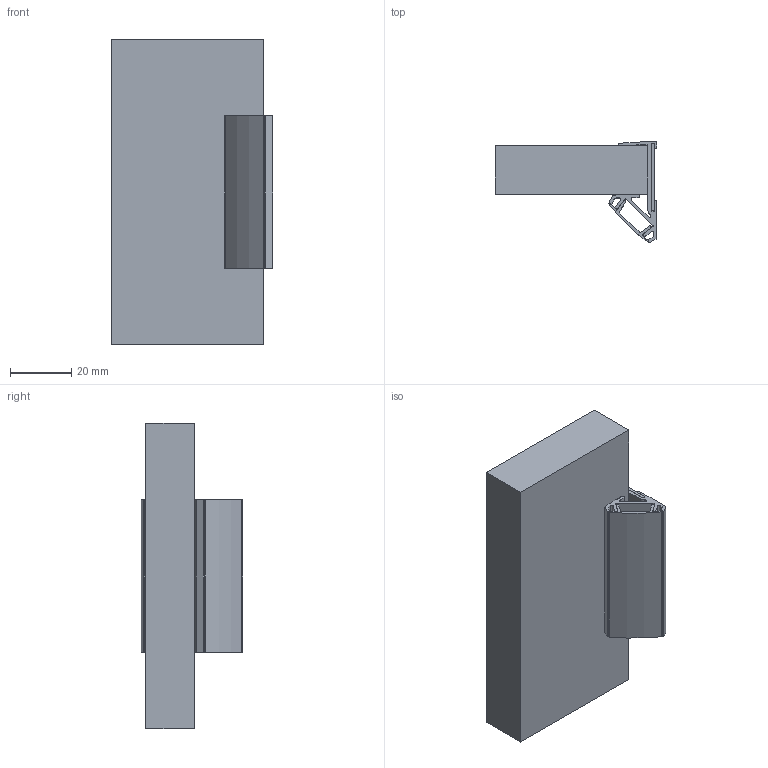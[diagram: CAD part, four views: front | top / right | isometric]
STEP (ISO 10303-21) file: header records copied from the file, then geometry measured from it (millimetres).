
FILE_DESCRIPTION(/* description */ ('Cover for LED Rails'),/* implementation_level */ '2;1');
FILE_NAME(/* name */ 'D:\$Workingspace\Designs\Profile\137 - Profil LED nakładany mały\MOOV pliki\pliki 3ds\PA-GLAXNBJW..M16-AL_KPL.stp',/* time_stamp */ '2018-01-16T15:24:04+01:00',/* author */ ('tomaszw'),/* organization */ (''),/* preprocessor_version */ 'ST-DEVELOPER v16.1',/* originating_system */ 'Autodesk Inventor 2016',/* authorisation */ '');
FILE_SCHEMA (('CONFIG_CONTROL_DESIGN'));
Length unit declared in the file: millimetre
Products named in the file (5): Cover for LED Rails-07; 130-profil led krawędziowy 18 pod obrze\X2\017C
\X0\e-05; płyta mała 16; obrzeże 16 ; PA-GLAXNBJW..M16-AL
Assembly tree (4 placements, depth 2):
  PA-GLAXNBJW..M16-AL
    Cover for LED Rails-07
    130-profil led krawędziowy 18 pod obrze\X2\017C
\X0\e-05
    płyta mała 16
    obrzeże 16 
Bounding box: 52.9 x 33.24 x 100 mm (x, y, z)
Volume: 86414.4 mm3; surface area: 27863 mm2
Topology: 4 solids, 4 shells, 139 faces, 393 edges, 262 vertices
Faces by surface type: plane 80, cylinder 59
Entity records: 4773 total; most frequent: DIRECTION 807, CARTESIAN_POINT 803, ORIENTED_EDGE 786, EDGE_CURVE 393, LINE 275, VECTOR 275, AXIS2_PLACEMENT_3D 266, VERTEX_POINT 262
